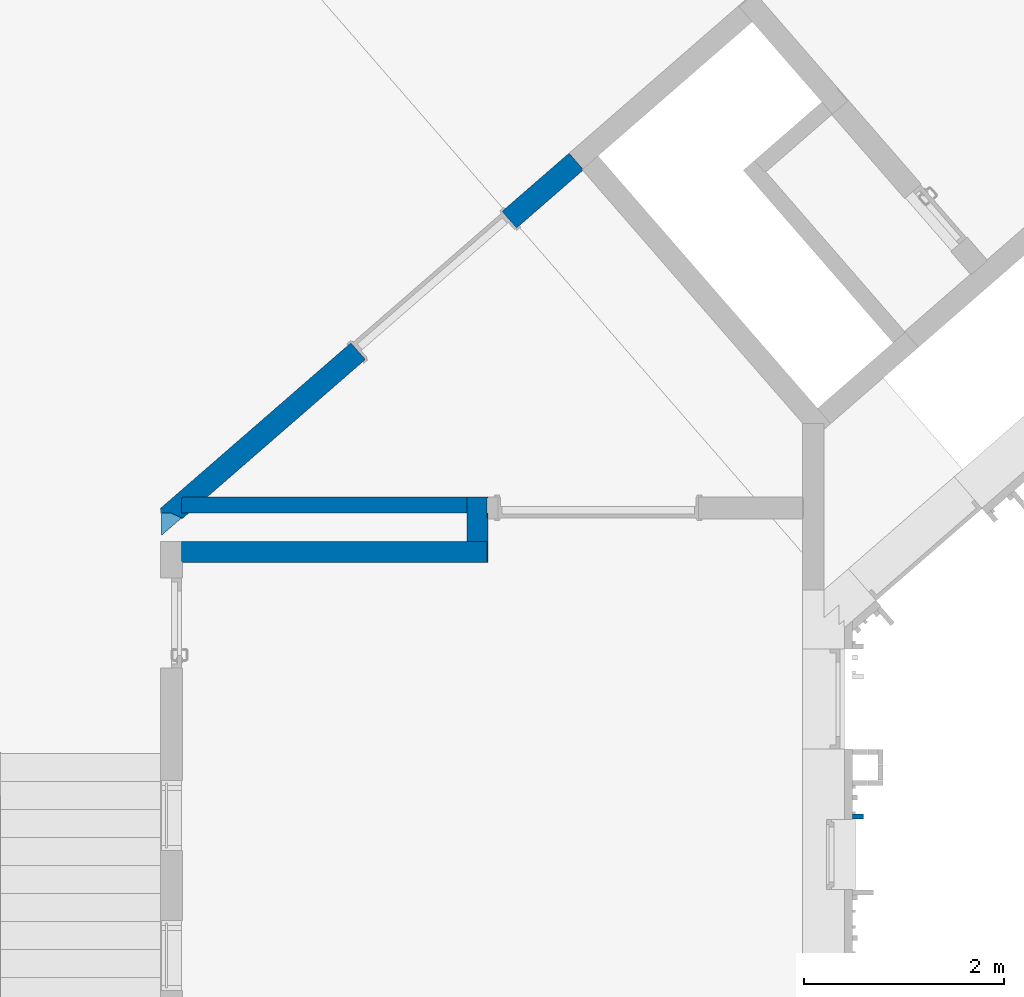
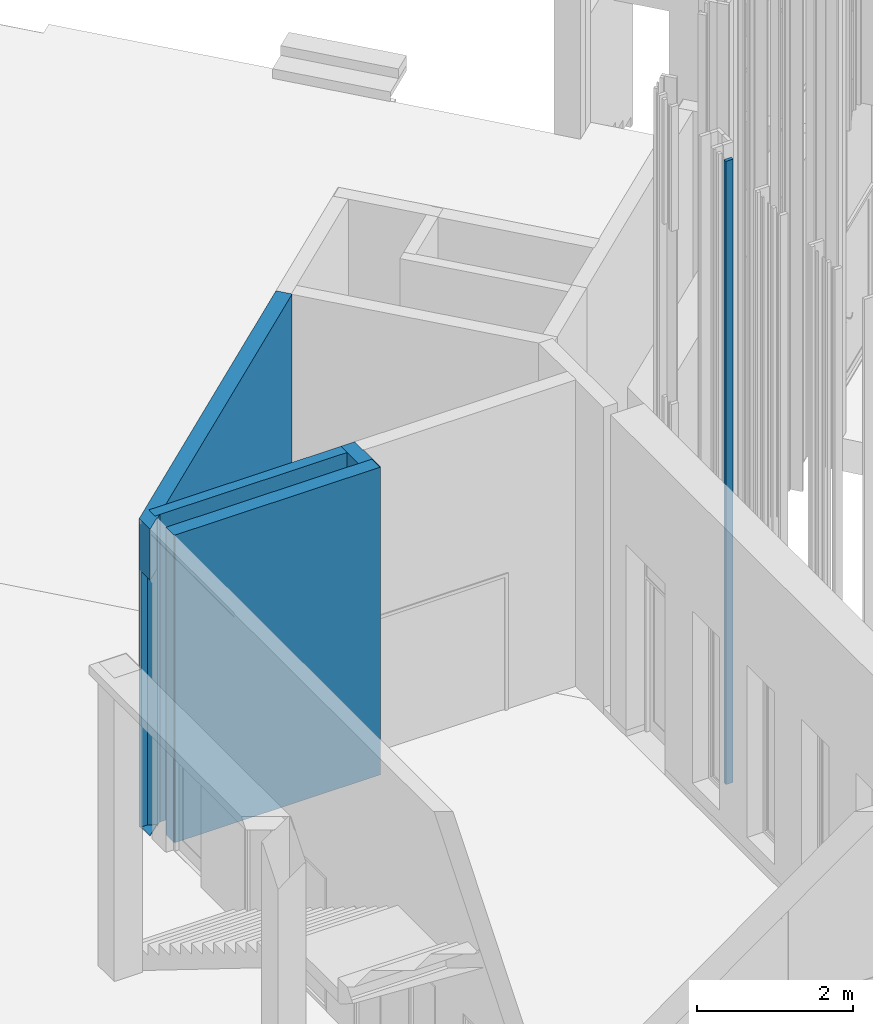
# One storey, part 192 of 390: 5 walls.
"""IFC2X3 building model written with IfcOpenShell, lengths in millimetres."""

from ifc_helpers import new_model, entity, si_unit, converted_unit, derived_unit, money_unit, direction, frame, origin_with_axes, place, context, subcontext, project, spatial, faceted_brep, material, material_list, type_object, element, save


model = new_model("IFC2X3")

# Units and contexts
model_context = context("Model", 3, precision=1e-05, world=origin_with_axes(), true_north=direction((0.0, 1.0)))
body_context = subcontext(model_context, "Body", "Model", "MODEL_VIEW")
ifc_project = project(units=[si_unit("LENGTHUNIT", "METRE", prefix="MILLI"), si_unit("AREAUNIT", "SQUARE_METRE"), si_unit("VOLUMEUNIT", "CUBIC_METRE"), converted_unit("PLANEANGLEUNIT", "DEGREE", entity("IfcPlaneAngleMeasure", 0.0174532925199), si_unit("PLANEANGLEUNIT", "RADIAN"), dimensions=[0, 0, 0, 0, 0, 0, 0]), si_unit("SOLIDANGLEUNIT", "STERADIAN"), money_unit("EUR"), converted_unit("TIMEUNIT", "Year", entity("IfcTimeMeasure", 31556926.0), si_unit("TIMEUNIT", "SECOND"), dimensions=[0, 0, 1, 0, 0, 0, 0]), si_unit("MASSUNIT", "GRAM", prefix="KILO"), si_unit("THERMODYNAMICTEMPERATUREUNIT", "DEGREE_CELSIUS"), si_unit("LUMINOUSINTENSITYUNIT", "LUMEN"), si_unit("ENERGYUNIT", "JOULE", prefix="MEGA"), derived_unit("THERMALCONDUCTANCEUNIT", [(si_unit("POWERUNIT", "WATT"), 1), (si_unit("LENGTHUNIT", "METRE"), -1), (si_unit("THERMODYNAMICTEMPERATUREUNIT", "KELVIN"), -1)]), derived_unit("SPECIFICHEATCAPACITYUNIT", [(si_unit("ENERGYUNIT", "JOULE"), 1), (si_unit("MASSUNIT", "GRAM", prefix="KILO"), -1), (si_unit("THERMODYNAMICTEMPERATUREUNIT", "KELVIN"), -1)]), derived_unit("MASSDENSITYUNIT", [(si_unit("MASSUNIT", "GRAM", prefix="KILO"), 1), (si_unit("VOLUMEUNIT", "CUBIC_METRE"), -1)])], contexts=[model_context])

# Site, building, storey
site_placement = place(None, origin_with_axes())
site = spatial("IfcSite", under=ifc_project, at=site_placement, Name="Site", CompositionType="ELEMENT")
building_placement = place(site_placement, origin_with_axes())
building = spatial("IfcBuilding", under=site, at=building_placement, Name="Building", CompositionType="ELEMENT")
storey_placement = place(building_placement, origin_with_axes())
storey = spatial("IfcBuildingStorey", under=building, at=storey_placement, Name="1 korrus", CompositionType="ELEMENT", Elevation=0.0)

# Walls
ifc_material_1 = material(Name="Krohv - Lubjakivi")
ifc_material_2 = material(Name="Raudbetoon - Konstruktsioon")
ifc_material_list_1 = material_list([ifc_material_1, ifc_material_2, ifc_material_1])
wall_type_1 = type_object("IfcWallType", Name="SS-10", PredefinedType="NOTDEFINED")
wall_1_placement = place(storey_placement, frame((136957.867471, 70949.9957132, -20.0), z_axis=(0.0, 0.0, 1.0), x_axis=(-0.754709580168, -0.656059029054, 0.0)))
element("IfcWall", 1, at=wall_1_placement, inside=storey, type_object=wall_type_1, material=ifc_material_list_1, Name="SS-10", context=body_context, shape_type="Brep", body=[
    faceted_brep([(5302.96761236, 220.000000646, 20.0), (5316.21774259, 220.0, 20.0), (5316.21774259, 220.0, 0.0), (2886.06755007, 220.0, 0.0), (2886.06755007, 220.0, 20.0), (2886.06755007, 220.0, 2120.0), (886.067550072, 220.0, 2120.0), (886.067550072, 220.0, 20.0), (886.067550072, 220.0, 0.0), (0.0, 220.0, 0.0), (0.0, 220.0, 4820.0), (5316.21774259, 220.0, 4820.0), (5316.21774259, 220.0, 4020.0), (5302.96761236, 220.000000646, 4020.0), (5307.52487521, 210.0, 20.0), (5307.52487521, 210.0, 0.0), (2886.06755007, 210.0, 0.0), (2886.06755007, 210.0, 20.0), (2886.06755007, 210.0, 2120.0), (886.067550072, 210.0, 2120.0), (886.067550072, 210.0, 20.0), (886.067550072, 210.0, 0.0), (0.0, 210.0, 0.0), (0.0, 210.0, 4820.0), (5307.52487521, 210.0, 4820.0), (5307.52487521, 210.0, 4020.0)], [[[0, 1, 2, 3, 4, 5, 6, 7, 8, 9, 10, 11, 12, 13]], [[1, 0, 14]], [[1, 14, 15, 2]], [[16, 3, 2, 15]], [[16, 17, 4, 3]], [[18, 5, 4, 17]], [[19, 6, 5, 18]], [[20, 7, 6, 19]], [[8, 7, 20, 21]], [[8, 21, 22, 9]], [[10, 9, 22, 23]], [[24, 11, 10, 23]], [[25, 12, 11, 24]], [[13, 12, 25]], [[25, 14, 0, 13]], [[14, 25, 24, 23, 22, 21, 20, 19, 18, 17, 16, 15]]]),
    faceted_brep([(5307.52487521, 210.0, 20.0), (5572.52747389, 210.0, 20.0), (5572.52747389, 210.0, 0.0), (2886.06755007, 210.0, 0.0), (2886.06755007, 210.0, 20.0), (2886.06755007, 210.0, 2120.0), (886.067550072, 210.0, 2120.0), (886.067550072, 210.0, 20.0), (886.067550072, 210.0, 0.0), (0.0, 210.0, 0.0), (0.0, 210.0, 4820.0), (5572.52747389, 210.0, 4820.0), (5572.52747389, 210.0, 4020.0), (5307.52487521, 210.0, 4020.0), (5358.24276666, 98.7097444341, 20.0), (5425.19286064, 40.5109156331, 20.0), (5425.19286064, 40.5109156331, 4020.0), (5398.67012632, 10.0, 4820.0), (5398.67012632, 10.0, 0.0), (2886.06755007, 10.0, 0.0), (2886.06755007, 10.0, 20.0), (2886.06755007, 10.0, 2120.0), (886.067550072, 10.0, 2120.0), (886.067550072, 10.0, 20.0), (886.067550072, 10.0, 0.0), (0.0, 10.0, 0.0), (0.0, 10.0, 4820.0), (5358.24276666, 98.7097444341, 4020.0)], [[[0, 1, 2, 3, 4, 5, 6, 7, 8, 9, 10, 11, 12, 13]], [[1, 0, 14, 15]], [[16, 12, 11, 17, 18, 2, 1, 15]], [[19, 3, 2, 18]], [[19, 20, 4, 3]], [[21, 5, 4, 20]], [[22, 6, 5, 21]], [[23, 7, 6, 22]], [[8, 7, 23, 24]], [[8, 24, 25, 9]], [[10, 9, 25, 26]], [[17, 11, 10, 26]], [[13, 12, 16, 27]], [[0, 13, 27, 14]], [[16, 15, 14, 27]], [[22, 21, 20, 19, 18, 17, 26, 25, 24, 23]]]),
    faceted_brep([(2886.06755007, 10.0, 20.0), (2886.06755007, 10.0, 2120.0), (886.067550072, 10.0, 2120.0), (886.067550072, 10.0, 20.0), (886.067550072, 10.0, 0.0), (0.0, 10.0, 0.0), (0.0, 10.0, 4820.0), (5398.67001519, 10.0, 4820.0), (5398.67012076, 10.0, 4765.0), (5411.92025625, 10.0, 4765.0), (5411.92025625, 10.0, 0.0), (2886.06755007, 10.0, 0.0), (2886.06755007, 0.0, 20.0), (2886.06755007, 0.0, 2120.0), (886.067550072, 0.0, 2120.0), (886.067550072, 0.0, 20.0), (886.067550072, 0.0, 0.0), (0.0, 0.0, 0.0), (0.0, 0.0, 4820.0), (5389.97714781, 0.0, 4820.0), (5389.97725395, 0.0, 4765.0), (5403.22738887, 0.0, 4765.0), (5403.22738887, 0.0, 0.0), (2886.06755007, 0.0, 0.0)], [[[0, 1, 2, 3, 4, 5, 6, 7, 8, 9, 10, 11]], [[1, 0, 12, 13]], [[2, 1, 13, 14]], [[3, 2, 14, 15]], [[3, 15, 16, 4]], [[16, 17, 5, 4]], [[5, 17, 18, 6]], [[7, 6, 18, 19]], [[19, 20, 8, 7]], [[21, 9, 8, 20]], [[21, 22, 10, 9]], [[11, 10, 22, 23]], [[12, 0, 11, 23]], [[13, 12, 23, 22, 21, 20, 19, 18, 17, 16, 15, 14]]]),
])
ifc_material_list_2 = material_list([ifc_material_2, ifc_material_1])
wall_type_2 = type_object("IfcWallType", Name="SS-11", PredefinedType="NOTDEFINED")
wall_2_placement = place(storey_placement, frame((132879.999997, 67073.1749765, -20.0), z_axis=(0.0, 0.0, 1.0), x_axis=(1.0, 1.12990227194e-10, 0.0)))
element("IfcWall", 2, at=wall_2_placement, inside=storey, type_object=wall_type_2, material=ifc_material_list_2, Name="SS-11", context=body_context, shape_type="Brep", body=[
    faceted_brep([(3260.00000007, -3.68345354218e-07, 4820.0), (209.999999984, -2.37321273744e-08, 4820.0), (209.999999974, -200.000000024, 4820.0), (3260.00117783, -200.000000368, 4820.0), (3260.00000007, -3.68345354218e-07, 0.0), (209.999999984, -2.37321273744e-08, 0.0), (209.999999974, -200.000000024, 0.0), (3260.00117783, -200.000000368, 0.0)], [[[0, 1, 2, 3]], [[4, 5, 1, 0]], [[2, 1, 5, 6]], [[3, 2, 6, 7]], [[3, 7, 4, 0]], [[7, 6, 5, 4]]]),
    faceted_brep([(3270.00117783, -200.000000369, 4820.0), (219.999999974, -200.000000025, 4820.0), (219.999999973, -210.000000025, 4820.0), (3270.00123672, -210.000000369, 4820.0), (3270.00117783, -200.000000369, 0.0), (219.999999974, -200.000000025, 0.0), (219.999999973, -210.000000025, 0.0), (3270.00123672, -210.000000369, 0.0)], [[[0, 1, 2, 3]], [[4, 5, 1, 0]], [[2, 1, 5, 6]], [[3, 2, 6, 7]], [[3, 7, 4, 0]], [[7, 6, 5, 4]]]),
])
ifc_material_list_3 = material_list([ifc_material_1, ifc_material_1, ifc_material_2])
wall_3_placement = place(storey_placement, frame((135939.998307, 67360.1749182, -150.0), z_axis=(0.0, 0.0, 1.0), x_axis=(5.88891621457e-06, -0.999999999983, 0.0)))
element("IfcWall", 3, at=wall_3_placement, inside=storey, type_object=wall_type_2, material=ifc_material_list_3, Name="SS-11", context=body_context, shape_type="Brep", body=[
    faceted_brep([(0.0, 200.000000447, 130.0), (0.0, 210.0, 130.0), (0.0, 210.0, 0.0), (0.0, 200.000000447, 0.0), (50.0011777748, 210.0, 130.0), (50.0011188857, 200.000000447, 130.0), (50.0011777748, 210.0, 4950.0), (487.001178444, 210.0, 4950.0), (487.001178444, 210.0, 130.0), (286.999941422, 210.0, 130.000000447), (286.999941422, 210.0, 0.0), (286.999941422, 200.000000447, 0.0), (286.999941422, 200.000000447, 130.000000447), (487.001119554, 200.000000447, 130.0), (487.001119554, 200.0, 4950.0), (50.0011188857, 200.0, 4950.0)], [[[0, 1, 2, 3]], [[4, 1, 0, 5]], [[4, 6, 7, 8, 9, 10, 2, 1]], [[2, 10, 11, 3]], [[5, 0, 3, 11, 12, 13, 14, 15]], [[15, 6, 4, 5]], [[6, 15, 14, 7]], [[8, 7, 14, 13]], [[8, 13, 12, 9]], [[11, 10, 9, 12]]]),
    faceted_brep([(-149.998881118, 200.0, 4950.0), (-149.998822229, 210.0, 4950.0), (-159.998820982, 210.0, 4950.0), (-159.998879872, 200.0, 4950.0), (-149.998822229, 210.0, 130.0), (-149.998881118, 200.000000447, 130.0), (-159.998820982, 210.0, 130.000000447), (-159.998879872, 200.000000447, 130.000000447)], [[[0, 1, 2, 3]], [[4, 1, 0, 5]], [[1, 4, 6, 2]], [[2, 6, 7, 3]], [[5, 0, 3, 7]], [[4, 5, 7, 6]]]),
    faceted_brep([(286.999941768, 0.0, 4950.0), (287.001119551, 200.0, 4950.0), (-159.998879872, 200.0, 4950.0), (-160.000057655, 0.0, 4950.0), (287.001119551, 200.00000044, 130.0), (286.999941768, 0.0, 130.0), (286.999941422, 0.0, 0.0), (286.999941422, 200.000000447, 0.0), (0.0, 200.000000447, 0.0), (0.0, 200.000000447, 130.000000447), (-159.998879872, 200.000000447, 130.000000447), (-160.000057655, 0.0, 130.000000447), (0.0, 0.0, 130.000000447), (0.0, 0.0, 0.0)], [[[0, 1, 2, 3]], [[4, 1, 0, 5, 6, 7]], [[1, 4, 7, 8, 9, 10, 2]], [[2, 10, 11, 3]], [[5, 0, 3, 11, 12, 13, 6]], [[8, 7, 6, 13]], [[12, 9, 8, 13]], [[12, 11, 10, 9]]]),
])
ifc_material_3 = material(Name="Site specified")
wall_type_3 = type_object("IfcWallType", Name="Puitfassaadi ribistik", PredefinedType="NOTDEFINED")
wall_4_placement = place(storey_placement, frame((139841.499997, 64328.0000087, 100.000000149), z_axis=(0.0, 0.0, 1.0), x_axis=(0.0, -1.0, 0.0)))
element("IfcWall", 4, at=wall_4_placement, inside=storey, type_object=wall_type_3, material=ifc_material_3, Name="Site specified", context=body_context, shape_type="Brep", body=[
    faceted_brep([(-25.0, -54.5, 9764.99999985), (-25.0, -54.5, 0.0), (25.0, -54.5, 0.0), (25.0, -54.5, 9764.99999985), (-25.0, 54.5, 9764.99999985), (-25.0, 54.5, 0.0), (25.0, 54.5, 0.0), (25.0, 54.5, 9764.99999985)], [[[0, 1, 2, 3]], [[4, 5, 1, 0]], [[2, 1, 5, 6]], [[3, 2, 6, 7]], [[4, 0, 3, 7]], [[7, 6, 5, 4]]]),
])
ifc_material_4 = material(Name="Müüriplokk - Konstuktsioon")
ifc_material_list_4 = material_list([ifc_material_1, ifc_material_4])
wall_type_4 = type_object("IfcWallType", Name="SS-05", PredefinedType="NOTDEFINED")
wall_5_placement = place(storey_placement, frame((132879.999997, 67360.1749765, -20.0), z_axis=(0.0, 0.0, 1.0), x_axis=(1.0, -1.90353389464e-08, 0.0)))
element("IfcWall", 5, at=wall_5_placement, inside=storey, type_object=wall_type_4, material=ifc_material_list_4, Name="SS-05", context=body_context, shape_type="Brep", body=[
    faceted_brep([(3059.99742379, 150.000058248, 0.0), (219.999997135, 150.000004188, 0.0), (219.999996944, 160.000004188, 0.0), (3059.99736471, 160.000058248, 0.0), (3059.99742379, 150.000058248, 4820.0), (219.999997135, 150.000004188, 4820.0), (219.999996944, 160.000004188, 4820.0), (3059.99736471, 160.000058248, 4820.0)], [[[0, 1, 2, 3]], [[4, 5, 1, 0]], [[2, 1, 5, 6]], [[3, 2, 6, 7]], [[3, 7, 4, 0]], [[7, 6, 5, 4]]]),
    faceted_brep([(3059.99830998, 5.8248105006e-05, 0.0), (210.0, 3.99742816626e-06, 0.0), (209.999997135, 150.000003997, 0.0), (3059.99742379, 150.000058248, 0.0), (3059.99830998, 5.8248105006e-05, 4820.0), (210.0, 3.99742816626e-06, 4820.0), (209.999997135, 150.000003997, 4820.0), (3059.99742379, 150.000058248, 4820.0)], [[[0, 1, 2, 3]], [[4, 5, 1, 0]], [[2, 1, 5, 6]], [[3, 2, 6, 7]], [[3, 7, 4, 0]], [[7, 6, 5, 4]]]),
])

save(model, "model.ifc")
